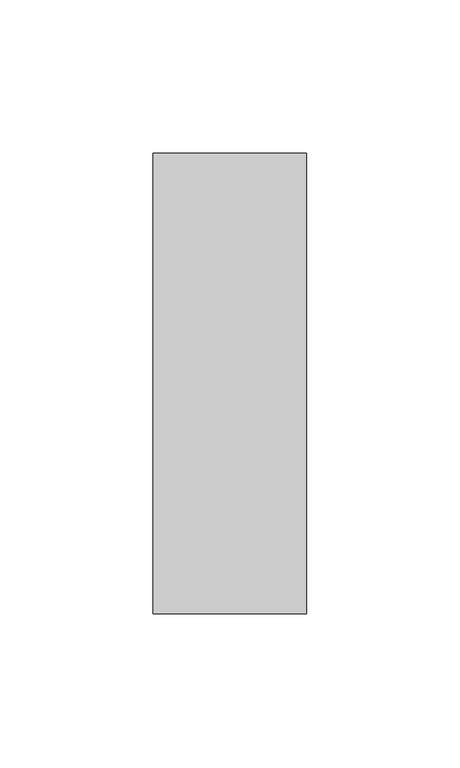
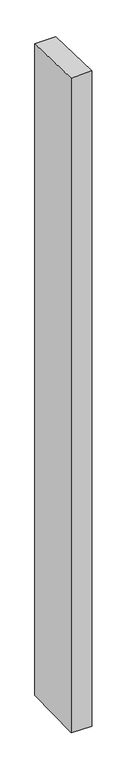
"""IFC4 building model written with IfcOpenShell, lengths in millimetres: member geometry, Прямоугольный импост : 50 x 150 мм."""

import ifcopenshell
import ifcopenshell.guid

model = None  # the IFC model being written
_history = None  # IfcOwnerHistory: only IFC2X3 demands one
_inside = {}  # id of a spatial element -> (the spatial element, [elements in it])
_under = {}  # id of a project, library or spatial element -> (it, [spatial elements below it])
_declared = {}  # id of a project -> (the project, [libraries it declares])
_typed = {}  # id of a type object -> (the type object, [elements of that type])
_made_of = {}  # id of a material, layer set ... -> (it, [elements and type objects made of it])


def new_model(schema):
    """Start an empty IFC model of exactly this schema.

    Asked for "IFC4X3", IfcOpenShell would pick the latest addendum, in which some entities
    have other attributes; the version numbers below select the first issue.
    IFC2X3 requires an IfcOwnerHistory on every rooted entity: one is made here for all.
    """
    global model, _history
    if schema == "IFC4X3":
        model = ifcopenshell.file(schema_version=(4, 3, 0, 0))
    else:
        model = ifcopenshell.file(schema=schema)
    _inside.clear()
    _under.clear()
    _declared.clear()
    _typed.clear()
    _made_of.clear()
    _history = None
    if model.schema == "IFC2X3":
        org = make("IfcOrganization", Name="unknown")
        user = make(
            "IfcPersonAndOrganization",
            ThePerson=make("IfcPerson", FamilyName="unknown"),
            TheOrganization=org,
        )
        app = make(
            "IfcApplication",
            ApplicationDeveloper=org,
            Version="unknown",
            ApplicationFullName="unknown",
            ApplicationIdentifier="unknown",
        )
        _history = make(
            "IfcOwnerHistory",
            OwningUser=user,
            OwningApplication=app,
            ChangeAction="ADDED",
            CreationDate=0,
        )
    return model


def make(cls, **values):
    """One entity of the class cls with the attributes given. An attribute that is None is left unset."""
    return model.create_entity(
        cls, **{name: value for name, value in values.items() if value is not None}
    )


def rooted(cls, **values):
    """An entity with a GlobalId (a new one), such as an element, a storey or a relation."""
    return make(cls, GlobalId=ifcopenshell.guid.new(), OwnerHistory=_history, **values)


def si_unit(unit_type, name, prefix=None):
    """IfcSIUnit, for example si_unit("LENGTHUNIT", "METRE", prefix="MILLI")."""
    return make("IfcSIUnit", UnitType=unit_type, Prefix=prefix, Name=name)


def assignment(units):
    """IfcUnitAssignment: the units of a project."""
    return None if units is None else make("IfcUnitAssignment", Units=units)


def point(xyz):
    """IfcCartesianPoint."""
    return None if xyz is None else make("IfcCartesianPoint", Coordinates=xyz)


def direction(xyz):
    """IfcDirection."""
    return None if xyz is None else make("IfcDirection", DirectionRatios=xyz)


def frame(location, z_axis=None, x_axis=None):
    """IfcAxis2Placement3D, a coordinate frame: its origin and axes. An axis left out is left unset."""
    return make(
        "IfcAxis2Placement3D",
        Location=point(location),
        Axis=direction(z_axis),
        RefDirection=direction(x_axis),
    )


def origin():
    """The frame at (0, 0, 0) with its axes left unset."""
    return frame((0.0, 0.0, 0.0))


def place(relative_to, where):
    """IfcLocalPlacement: puts the frame where relative to a parent placement (None: the world)."""
    return make(
        "IfcLocalPlacement", PlacementRelTo=relative_to, RelativePlacement=where
    )


def context(
    kind, dimensions, precision=None, world=None, true_north=None, identifier=None
):
    """IfcGeometricRepresentationContext, for example the 3D "Model" context."""
    return make(
        "IfcGeometricRepresentationContext",
        ContextIdentifier=identifier,
        ContextType=kind,
        CoordinateSpaceDimension=dimensions,
        Precision=precision,
        WorldCoordinateSystem=world,
        TrueNorth=true_north,
    )


def project(units=None, contexts=None):
    """IfcProject with its units and contexts."""
    return rooted(
        "IfcProject",
        Name="project",
        RepresentationContexts=contexts,
        UnitsInContext=assignment(units),
    )


def spatial(cls, under=None, at=None, **own):
    """A site, building, storey or space (cls), placed at a placement, below another one or the project."""
    s = rooted(cls, ObjectPlacement=at, **own)
    if under is not None:
        _under.setdefault(under.id(), (under, []))[1].append(s)
    return s


def faces_of(points, faces, orient=None, outer=None):
    """IfcFace entities. A face is a list of loops; a loop is a list of indices into points, from 0.

    orient and outer hold one flag for each loop. By default every Orientation is true, the
    first loop of a face is its IfcFaceOuterBound and the others are IfcFaceBound.
    """
    made = []
    for i, loops in enumerate(faces):
        bounds = []
        for j, loop in enumerate(loops):
            is_outer = j == 0 if outer is None else outer[i][j]
            bounds.append(
                make(
                    "IfcFaceOuterBound" if is_outer else "IfcFaceBound",
                    Bound=make("IfcPolyLoop", Polygon=[points[k] for k in loop]),
                    Orientation=True if orient is None else orient[i][j],
                )
            )
        made.append(make("IfcFace", Bounds=bounds))
    return made


def faceted_brep(points, faces, orient=None, outer=None, voids=None):
    """IfcFacetedBrep: a solid bounded by flat faces; with voids (closed shells), ...WithVoids."""
    shared = [point(p) for p in points]
    hull = make("IfcClosedShell", CfsFaces=faces_of(shared, faces, orient, outer))
    if voids is None:
        return make("IfcFacetedBrep", Outer=hull)
    return make(
        "IfcFacetedBrepWithVoids",
        Outer=hull,
        Voids=[
            make(cls, CfsFaces=faces_of(shared, fs, o, b)) for cls, fs, o, b in voids
        ],
    )


def shape(context_of_items, identifier, shape_type, items):
    """IfcShapeRepresentation: the items that make up one representation, for example the "Body"."""
    return make(
        "IfcShapeRepresentation",
        ContextOfItems=context_of_items,
        RepresentationIdentifier=identifier,
        RepresentationType=shape_type,
        Items=items,
    )


def source(mapping_origin, context_of_items, identifier, shape_type, items):
    """IfcRepresentationMap: a shape defined once, which mapped items show again and again."""
    return make(
        "IfcRepresentationMap",
        MappingOrigin=mapping_origin,
        MappedRepresentation=shape(context_of_items, identifier, shape_type, items),
    )


def transform(
    local_origin,
    x_axis=None,
    y_axis=None,
    z_axis=None,
    scale=None,
    scale2=None,
    scale3=None,
    uniform=True,
):
    """IfcCartesianTransformationOperator3D, or its non-uniform kind. x_axis, y_axis, z_axis: its Axis1, 2, 3."""
    if uniform:
        return make(
            "IfcCartesianTransformationOperator3D",
            Axis1=direction(x_axis),
            Axis2=direction(y_axis),
            LocalOrigin=point(local_origin),
            Scale=scale,
            Axis3=direction(z_axis),
        )
    return make(
        "IfcCartesianTransformationOperator3DnonUniform",
        Axis1=direction(x_axis),
        Axis2=direction(y_axis),
        LocalOrigin=point(local_origin),
        Scale=scale,
        Axis3=direction(z_axis),
        Scale2=scale2,
        Scale3=scale3,
    )


def mapped(mapping_source, mapping_target):
    """IfcMappedItem: shows the shape of a source again, moved by a transform."""
    return make(
        "IfcMappedItem", MappingSource=mapping_source, MappingTarget=mapping_target
    )


def made_of(thing, what):
    """Note that an element or type object is made of a material, layer set ...; save() writes the relation."""
    if what is not None:
        _made_of.setdefault(what.id(), (what, []))[1].append(thing)
    return thing


def element(
    cls,
    number,
    at=None,
    inside=None,
    cuts=None,
    type_object=None,
    material=None,
    context=None,
    identifier="Body",
    shape_type=None,
    held_by="IfcProductDefinitionShape",
    body=None,
    shapes=None,
    **own,
):
    """One element of the class cls, such as IfcWall. Its Tag is "e" and its number.

    at: its placement. inside: the storey or other place that contains it. cuts: it is an
    opening in that element (IfcRelVoidsElement). A single representation is given by context,
    identifier, shape_type and body (its items); several are given by shapes. held_by: the class
    of the entity that holds the representations. save() writes the other relations.
    """
    e = rooted(cls, Tag="e%d" % number, ObjectPlacement=at, **own)
    if body is not None:
        shapes = [shape(context, identifier, shape_type, body)]
    if shapes is not None:
        e.Representation = make(held_by, Representations=shapes)
    if inside is not None:
        _inside.setdefault(inside.id(), (inside, []))[1].append(e)
    if cuts is not None:
        rooted(
            "IfcRelVoidsElement", RelatingBuildingElement=cuts, RelatedOpeningElement=e
        )
    if type_object is not None:
        _typed.setdefault(type_object.id(), (type_object, []))[1].append(e)
    return made_of(e, material)


def aggregate(whole, parts):
    """IfcRelAggregates: a whole, such as a stair, and the parts it consists of."""
    return rooted("IfcRelAggregates", RelatingObject=whole, RelatedObjects=parts)


def save(model, path):
    """Write the relations noted so far, then the file.

    IfcRelAggregates (storeys below a building ...), IfcRelContainedInSpatialStructure (elements
    in a storey), IfcRelDefinesByType, IfcRelAssociatesMaterial and IfcRelDeclares: one each for
    every whole, place, type object, material and project.
    """
    for whole, parts in _under.values():
        aggregate(whole, parts)
    for where, things in _inside.values():
        rooted(
            "IfcRelContainedInSpatialStructure",
            RelatedElements=things,
            RelatingStructure=where,
        )
    for kind, things in _typed.values():
        rooted("IfcRelDefinesByType", RelatedObjects=things, RelatingType=kind)
    for what, things in _made_of.values():
        rooted("IfcRelAssociatesMaterial", RelatedObjects=things, RelatingMaterial=what)
    for by, libraries in _declared.values():
        rooted("IfcRelDeclares", RelatingContext=by, RelatedDefinitions=libraries)
    model.write(path)


def member_10760c8e(model_context):
    return source(origin(), model_context, "Body", "Brep", [
        faceted_brep([(-25.0, 75.0, -2.6783928), (25.0, 75.0, -1.7429759), (25.0, 75.0, -1653.3504384), (-25.0, 75.0, -1652.1541258), (-25.0, -75.0, 1.7429759), (-25.0, -75.0, -1656.3228897), (25.0, -75.0, 2.6783928), (25.0, -75.0, -1657.5192023)], [[[0, 1, 2, 3]], [[4, 0, 3, 5]], [[6, 4, 5, 7]], [[1, 6, 7, 2]], [[1, 0, 4, 6]], [[2, 7, 5, 3]]]),
    ])


if __name__ == "__main__":
    model = new_model("IFC4")
    model_context = context("Model", 3, world=origin())
    ifc_project = project(units=[si_unit("LENGTHUNIT", "METRE", prefix="MILLI")], contexts=[model_context])
    site = spatial("IfcSite", under=ifc_project)
    building = spatial("IfcBuilding", under=site)
    placement = place(None, origin())
    member_shape = member_10760c8e(model_context)
    element("IfcMember", 1, ObjectType="Прямоугольный импост : 50 x 150 мм", at=placement, inside=building, context=model_context, shape_type="MappedRepresentation", body=[
        mapped(member_shape, transform((0.0, 0.0, 0.0), x_axis=(1.0, 0.0, 0.0), y_axis=(0.0, 1.0, 0.0), z_axis=(0.0, 0.0, 1.0))),
    ])
    save(model, "model.ifc")
